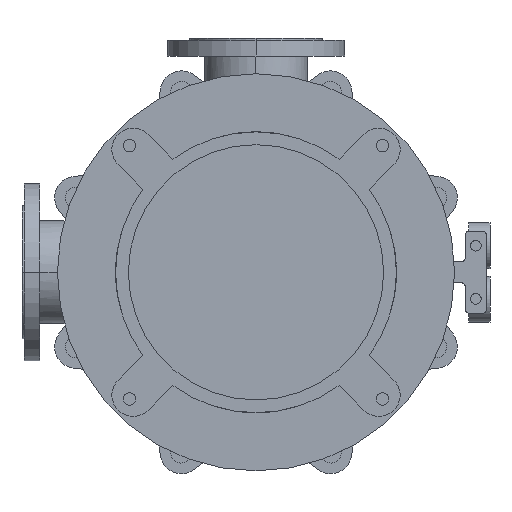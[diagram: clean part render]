
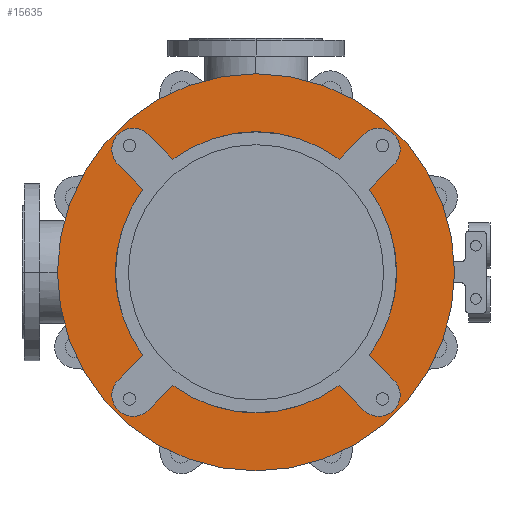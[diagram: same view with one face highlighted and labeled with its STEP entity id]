
A CAD part, front view. The second image highlights one B-rep face of the part: STEP entity #15635.
In plain terms, the highlighted planar face has unit normal (0, -1, 0).
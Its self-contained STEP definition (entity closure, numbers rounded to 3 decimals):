
#4410=CARTESIAN_POINT('',(0.,-25.,0.));
#4411=DIRECTION('',(0.,1.,0.));
#4412=DIRECTION('',(0.592,0.,-0.806));
#4413=AXIS2_PLACEMENT_3D('',#4410,#4411,#4412);
#4428=CARTESIAN_POINT('',(0.,-25.,0.));
#4429=DIRECTION('',(0.,1.,0.));
#4430=DIRECTION('',(0.806,0.,0.592));
#4431=AXIS2_PLACEMENT_3D('',#4428,#4429,#4430);
#4455=CARTESIAN_POINT('',(0.,-25.,0.));
#4456=DIRECTION('',(0.,1.,0.));
#4457=DIRECTION('',(-0.806,0.,-0.592));
#4458=AXIS2_PLACEMENT_3D('',#4455,#4456,#4457);
#4464=CARTESIAN_POINT('',(0.,-25.,0.));
#4465=DIRECTION('',(0.,1.,0.));
#4466=DIRECTION('',(-0.592,0.,0.806));
#4467=AXIS2_PLACEMENT_3D('',#4464,#4465,#4466);
#4642=CARTESIAN_POINT('',(0.,-25.,0.));
#4643=DIRECTION('',(0.,-1.,0.));
#4644=DIRECTION('',(-1.,0.,0.));
#4645=AXIS2_PLACEMENT_3D('',#4642,#4643,#4644);
#4647=CARTESIAN_POINT('',(0.,-25.,0.));
#4648=DIRECTION('',(0.,1.,0.));
#4649=DIRECTION('',(-1.,0.,0.));
#4650=AXIS2_PLACEMENT_3D('',#4647,#4648,#4649);
#4652=CARTESIAN_POINT('',(-173.241,-25.,173.241));
#4653=DIRECTION('',(0.,-1.,0.));
#4654=DIRECTION('',(0.707,0.,0.707));
#4655=AXIS2_PLACEMENT_3D('',#4652,#4653,#4654);
#4657=DIRECTION('',(0.707,0.,-0.707));
#4658=VECTOR('',#4657,49.286);
#4659=CARTESIAN_POINT('',(-194.454,-25.,152.028));
#4660=LINE('',#4659,#4658);
#4661=DIRECTION('',(-0.707,0.,-0.707));
#4662=VECTOR('',#4661,49.286);
#4663=CARTESIAN_POINT('',(-159.604,-25.,-117.178));
#4664=LINE('',#4663,#4662);
#4665=CARTESIAN_POINT('',(-173.241,-25.,-173.241));
#4666=DIRECTION('',(0.,-1.,0.));
#4667=DIRECTION('',(-0.707,0.,0.707));
#4668=AXIS2_PLACEMENT_3D('',#4665,#4666,#4667);
#4670=DIRECTION('',(0.707,0.,0.707));
#4671=VECTOR('',#4670,49.286);
#4672=CARTESIAN_POINT('',(-152.028,-25.,-194.454));
#4673=LINE('',#4672,#4671);
#4674=DIRECTION('',(0.707,0.,-0.707));
#4675=VECTOR('',#4674,49.286);
#4676=CARTESIAN_POINT('',(117.178,-25.,-159.604));
#4677=LINE('',#4676,#4675);
#4678=CARTESIAN_POINT('',(173.241,-25.,-173.241));
#4679=DIRECTION('',(0.,-1.,0.));
#4680=DIRECTION('',(-0.707,0.,-0.707));
#4681=AXIS2_PLACEMENT_3D('',#4678,#4679,#4680);
#4683=DIRECTION('',(-0.707,0.,0.707));
#4684=VECTOR('',#4683,49.286);
#4685=CARTESIAN_POINT('',(194.454,-25.,-152.028));
#4686=LINE('',#4685,#4684);
#4687=DIRECTION('',(0.707,0.,0.707));
#4688=VECTOR('',#4687,49.286);
#4689=CARTESIAN_POINT('',(159.604,-25.,117.178));
#4690=LINE('',#4689,#4688);
#4691=CARTESIAN_POINT('',(173.241,-25.,173.241));
#4692=DIRECTION('',(0.,-1.,0.));
#4693=DIRECTION('',(0.707,0.,-0.707));
#4694=AXIS2_PLACEMENT_3D('',#4691,#4692,#4693);
#4696=DIRECTION('',(-0.707,0.,-0.707));
#4697=VECTOR('',#4696,49.286);
#4698=CARTESIAN_POINT('',(152.028,-25.,194.454));
#4699=LINE('',#4698,#4697);
#4700=DIRECTION('',(-0.707,0.,0.707));
#4701=VECTOR('',#4700,49.286);
#4702=CARTESIAN_POINT('',(-117.178,-25.,159.604));
#4703=LINE('',#4702,#4701);
#8360=CARTESIAN_POINT('',(-280.,-25.,0.));
#8361=CARTESIAN_POINT('',(280.,-25.,0.));
#8362=VERTEX_POINT('',#8360);
#8363=VERTEX_POINT('',#8361);
#8384=CARTESIAN_POINT('',(-194.454,-25.,-152.028));
#8385=CARTESIAN_POINT('',(-152.028,-25.,-194.454));
#8386=VERTEX_POINT('',#8384);
#8387=VERTEX_POINT('',#8385);
#8388=CARTESIAN_POINT('',(-117.178,-25.,-159.604));
#8389=VERTEX_POINT('',#8388);
#8390=CARTESIAN_POINT('',(-159.604,-25.,-117.178));
#8391=VERTEX_POINT('',#8390);
#8400=CARTESIAN_POINT('',(152.028,-25.,-194.454));
#8401=CARTESIAN_POINT('',(194.454,-25.,-152.028));
#8402=VERTEX_POINT('',#8400);
#8403=VERTEX_POINT('',#8401);
#8404=CARTESIAN_POINT('',(159.604,-25.,-117.178));
#8405=VERTEX_POINT('',#8404);
#8406=CARTESIAN_POINT('',(117.178,-25.,-159.604));
#8407=VERTEX_POINT('',#8406);
#8416=CARTESIAN_POINT('',(194.454,-25.,152.028));
#8417=CARTESIAN_POINT('',(152.028,-25.,194.454));
#8418=VERTEX_POINT('',#8416);
#8419=VERTEX_POINT('',#8417);
#8420=CARTESIAN_POINT('',(117.178,-25.,159.604));
#8421=VERTEX_POINT('',#8420);
#8422=CARTESIAN_POINT('',(159.604,-25.,117.178));
#8423=VERTEX_POINT('',#8422);
#8432=CARTESIAN_POINT('',(-152.028,-25.,194.454));
#8433=CARTESIAN_POINT('',(-194.454,-25.,152.028));
#8434=VERTEX_POINT('',#8432);
#8435=VERTEX_POINT('',#8433);
#8436=CARTESIAN_POINT('',(-159.604,-25.,117.178));
#8437=VERTEX_POINT('',#8436);
#8438=CARTESIAN_POINT('',(-117.178,-25.,159.604));
#8439=VERTEX_POINT('',#8438);
#15595=CARTESIAN_POINT('',(0.,-25.,0.));
#15596=DIRECTION('',(0.,-1.,0.));
#15597=DIRECTION('',(-1.,0.,0.));
#15598=AXIS2_PLACEMENT_3D('',#15595,#15596,#15597);
#15599=PLANE('',#15598);
#15601=ORIENTED_EDGE('',*,*,#15600,.F.);
#15603=ORIENTED_EDGE('',*,*,#15602,.T.);
#15604=EDGE_LOOP('',(#15601,#15603));
#15605=FACE_OUTER_BOUND('',#15604,.F.);
#15607=ORIENTED_EDGE('',*,*,#15606,.T.);
#15609=ORIENTED_EDGE('',*,*,#15608,.T.);
#15610=ORIENTED_EDGE('',*,*,#15548,.F.);
#15612=ORIENTED_EDGE('',*,*,#15611,.T.);
#15614=ORIENTED_EDGE('',*,*,#15613,.T.);
#15616=ORIENTED_EDGE('',*,*,#15615,.T.);
#15617=ORIENTED_EDGE('',*,*,#15501,.F.);
#15618=ORIENTED_EDGE('',*,*,#15585,.T.);
#15620=ORIENTED_EDGE('',*,*,#15619,.T.);
#15622=ORIENTED_EDGE('',*,*,#15621,.T.);
#15623=ORIENTED_EDGE('',*,*,#15522,.F.);
#15625=ORIENTED_EDGE('',*,*,#15624,.T.);
#15627=ORIENTED_EDGE('',*,*,#15626,.T.);
#15629=ORIENTED_EDGE('',*,*,#15628,.T.);
#15630=ORIENTED_EDGE('',*,*,#15566,.F.);
#15632=ORIENTED_EDGE('',*,*,#15631,.T.);
#15633=EDGE_LOOP('',(#15607,#15609,#15610,#15612,#15614,#15616,#15617,#15618,
#15620,#15622,#15623,#15625,#15627,#15629,#15630,#15632));
#15634=FACE_BOUND('',#15633,.F.);
#15635=ADVANCED_FACE('',(#15605,#15634),#15599,.T.);
#4414=CIRCLE('',#4413,198.);
#4432=CIRCLE('',#4431,198.);
#4459=CIRCLE('',#4458,198.);
#4468=CIRCLE('',#4467,198.);
#4646=CIRCLE('',#4645,280.);
#4651=CIRCLE('',#4650,280.);
#4656=CIRCLE('',#4655,30.);
#4669=CIRCLE('',#4668,30.);
#4682=CIRCLE('',#4681,30.);
#4695=CIRCLE('',#4694,30.);
#15501=EDGE_CURVE('',#8407,#8389,#4414,.T.);
#15522=EDGE_CURVE('',#8423,#8405,#4432,.T.);
#15548=EDGE_CURVE('',#8391,#8437,#4459,.T.);
#15566=EDGE_CURVE('',#8439,#8421,#4468,.T.);
#15585=EDGE_CURVE('',#8407,#8402,#4677,.T.);
#15600=EDGE_CURVE('',#8362,#8363,#4646,.T.);
#15602=EDGE_CURVE('',#8362,#8363,#4651,.T.);
#15606=EDGE_CURVE('',#8434,#8435,#4656,.T.);
#15608=EDGE_CURVE('',#8435,#8437,#4660,.T.);
#15611=EDGE_CURVE('',#8391,#8386,#4664,.T.);
#15613=EDGE_CURVE('',#8386,#8387,#4669,.T.);
#15615=EDGE_CURVE('',#8387,#8389,#4673,.T.);
#15619=EDGE_CURVE('',#8402,#8403,#4682,.T.);
#15621=EDGE_CURVE('',#8403,#8405,#4686,.T.);
#15624=EDGE_CURVE('',#8423,#8418,#4690,.T.);
#15626=EDGE_CURVE('',#8418,#8419,#4695,.T.);
#15628=EDGE_CURVE('',#8419,#8421,#4699,.T.);
#15631=EDGE_CURVE('',#8439,#8434,#4703,.T.);
